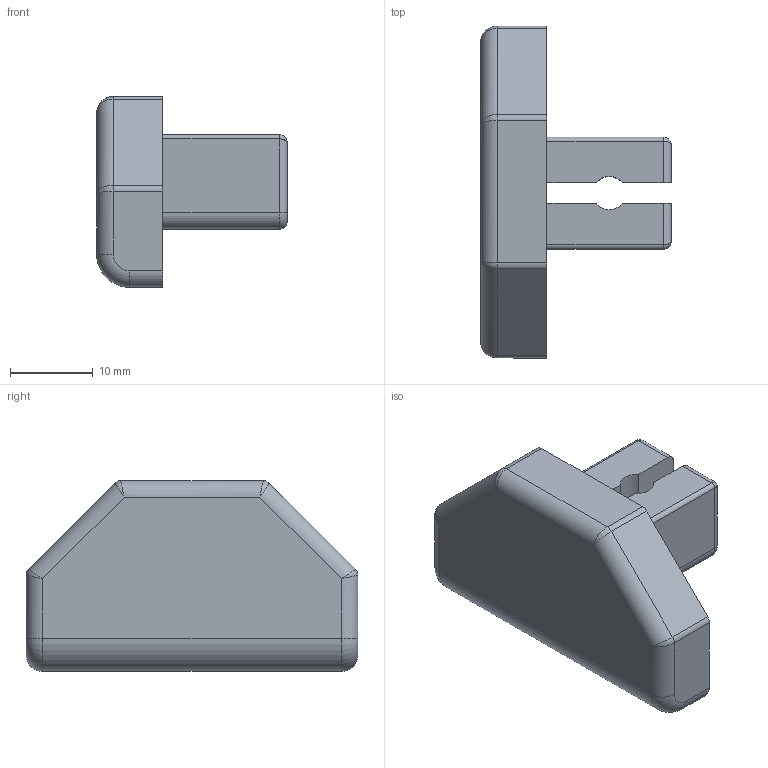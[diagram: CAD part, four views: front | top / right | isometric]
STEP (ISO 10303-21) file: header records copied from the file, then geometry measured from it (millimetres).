
FILE_DESCRIPTION (( 'STEP AP203' ), '1' );
FILE_NAME ('084.712.002.STEP', '2013-01-31T14:38:10', ( 'Alusic' ), ( 'Alusic' ), 'SwSTEP 2.0', 'SolidWorks 2011', '' );
FILE_SCHEMA (( 'CONFIG_CONTROL_DESIGN' ));
Length unit declared in the file: millimetre
Products named in the file (1): 084.712.002
Bounding box: 23 x 40 x 23 mm (x, y, z)
Volume: 7990.5 mm3; surface area: 3315 mm2
Topology: 1 solids, 1 shells, 54 faces, 130 edges, 74 vertices
Faces by surface type: cylinder 24, plane 20, bspline 6, torus 4
Entity records: 1727 total; most frequent: CARTESIAN_POINT 463, DIRECTION 250, ORIENTED_EDGE 248, EDGE_CURVE 124, AXIS2_PLACEMENT_3D 89, VERTEX_POINT 74, VECTOR 72, LINE 72
